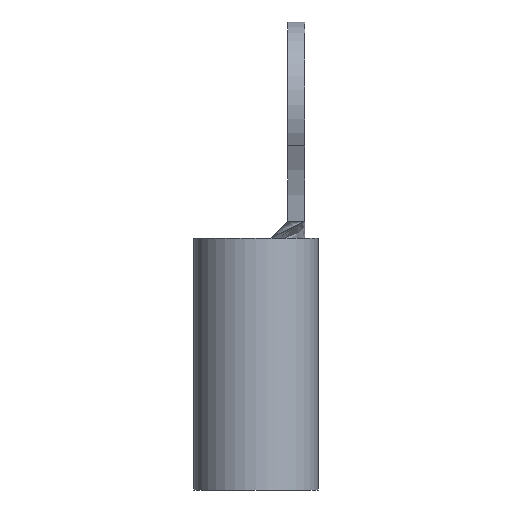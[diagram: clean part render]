
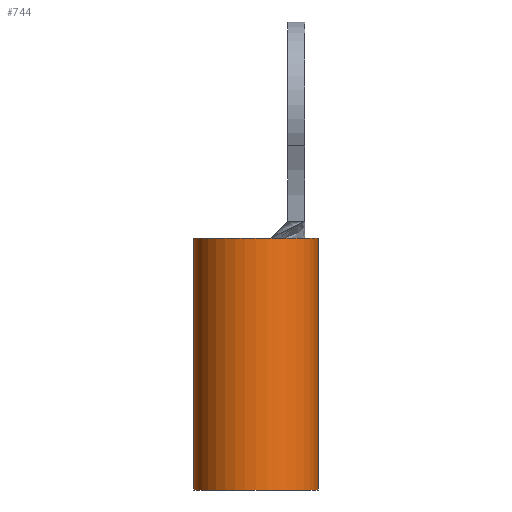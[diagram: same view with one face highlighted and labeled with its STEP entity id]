
A CAD part, left-side view. The second image highlights one B-rep face of the part: STEP entity #744.
In plain terms, the highlighted cylindrical face has radius 3.569 mm (diameter 7.137 mm), a partial arc.
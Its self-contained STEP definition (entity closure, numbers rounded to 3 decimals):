
#174=CARTESIAN_POINT('',(0.,2.807,-7.671));
#175=DIRECTION('',(0.,0.,1.));
#176=DIRECTION('',(0.,1.,0.));
#177=AXIS2_PLACEMENT_3D('',#174,#175,#176);
#179=DIRECTION('',(0.,0.,1.));
#180=VECTOR('',#179,14.453);
#181=CARTESIAN_POINT('',(0.,-0.762,-22.123));
#182=LINE('',#181,#180);
#188=DIRECTION('',(0.,0.,1.));
#189=VECTOR('',#188,14.453);
#190=CARTESIAN_POINT('',(0.,6.375,-22.123));
#191=LINE('',#190,#189);
#197=CARTESIAN_POINT('',(0.,2.807,-22.123));
#198=DIRECTION('',(0.,0.,1.));
#199=DIRECTION('',(0.,1.,0.));
#200=AXIS2_PLACEMENT_3D('',#197,#198,#199);
#333=CARTESIAN_POINT('',(0.,-0.762,-22.123));
#334=CARTESIAN_POINT('',(0.,-0.762,-7.671));
#335=VERTEX_POINT('',#333);
#336=VERTEX_POINT('',#334);
#345=CARTESIAN_POINT('',(0.,6.375,-22.123));
#346=CARTESIAN_POINT('',(0.,6.375,-7.671));
#347=VERTEX_POINT('',#345);
#348=VERTEX_POINT('',#346);
#730=CARTESIAN_POINT('',(0.,2.807,-6.948));
#731=DIRECTION('',(0.,0.,-1.));
#732=DIRECTION('',(0.,-1.,0.));
#733=AXIS2_PLACEMENT_3D('',#730,#731,#732);
#734=CYLINDRICAL_SURFACE('',#733,3.569);
#736=ORIENTED_EDGE('',*,*,#735,.F.);
#738=ORIENTED_EDGE('',*,*,#737,.F.);
#740=ORIENTED_EDGE('',*,*,#739,.T.);
#741=ORIENTED_EDGE('',*,*,#719,.T.);
#742=EDGE_LOOP('',(#736,#738,#740,#741));
#743=FACE_OUTER_BOUND('',#742,.F.);
#178=CIRCLE('',#177,3.569);
#201=CIRCLE('',#200,3.569);
#719=EDGE_CURVE('',#348,#336,#178,.T.);
#735=EDGE_CURVE('',#335,#336,#182,.T.);
#737=EDGE_CURVE('',#347,#335,#201,.T.);
#739=EDGE_CURVE('',#347,#348,#191,.T.);
#744=ADVANCED_FACE('',(#743),#734,.T.);
